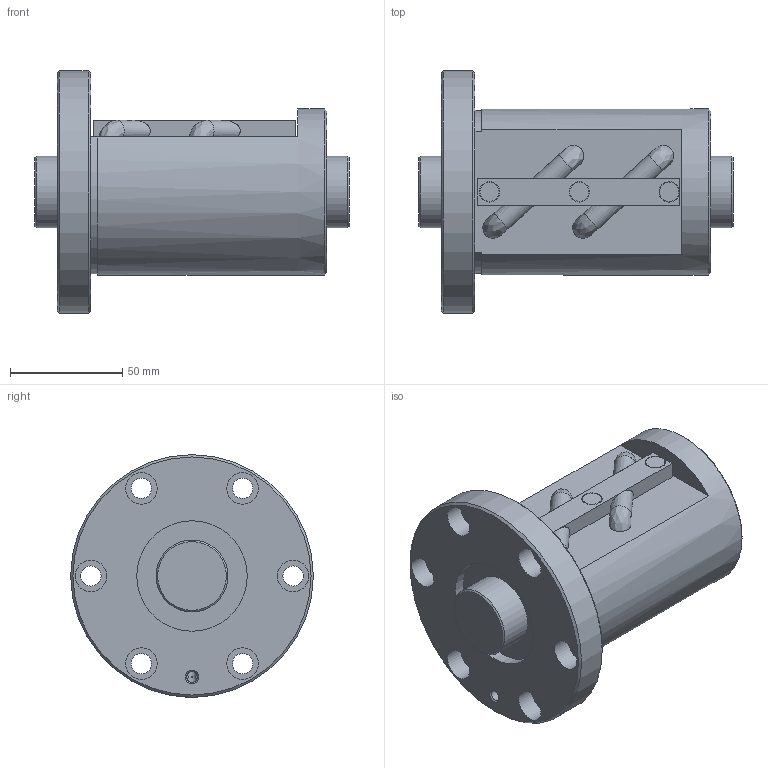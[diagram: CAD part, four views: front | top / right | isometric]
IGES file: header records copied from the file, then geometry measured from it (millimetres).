
Start section: Data from Parasolid IGES Translator 26.0.171, Copyright(c) 2006 Siemens PLM Software. All Rights Reserved.
Global section: file name: BIF3210V-7RRG0+140LC0_000.igs; native system: By Siemens PLM Incorporated; preprocessor: XPlus GENERIC/IGES 26.0.171; author: Noname; organization: Noname; date: 20240715.082320; units: millimetre
Bounding box: 140 x 108 x 108 mm (x, y, z)
Surface area: 80183.9 mm2 (no closed solid volume)
Topology: 0 solids, 0 shells, 93 faces, 419 edges, 372 vertices
Faces by surface type: revolution 50, extrusion 43
